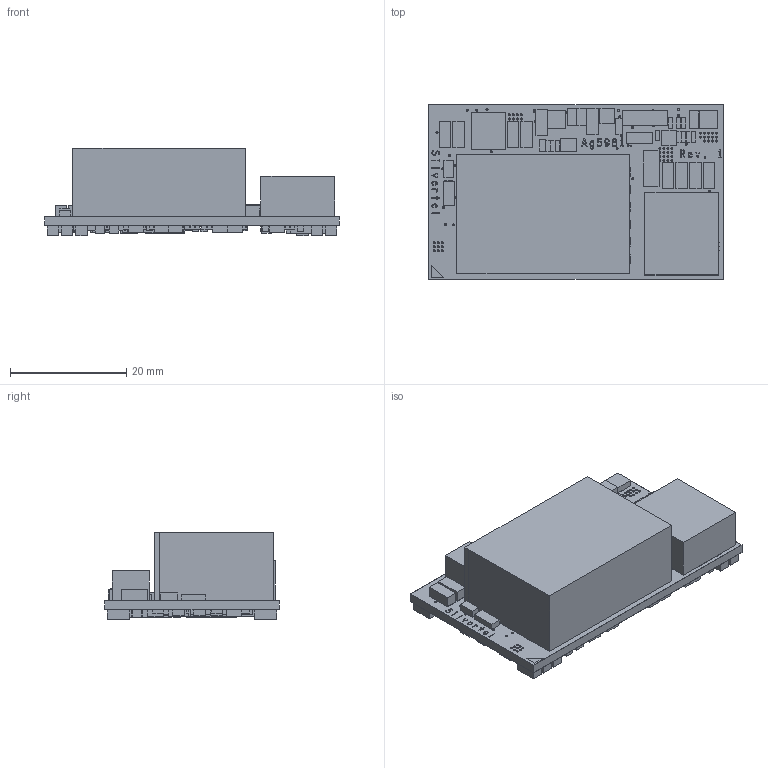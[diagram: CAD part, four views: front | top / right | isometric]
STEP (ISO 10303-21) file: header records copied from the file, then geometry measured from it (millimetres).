
FILE_DESCRIPTION(('FreeCAD Model'),'2;1');
FILE_NAME('Open CASCADE Shape Model','2025-09-18T10:27:08',(''),(''), 'Open CASCADE STEP processor 7.6','FreeCAD','Unknown');
FILE_SCHEMA(('AUTOMOTIVE_DESIGN { 1 0 10303 214 1 1 1 1 }'));
Products named in the file (1): Ag59800_Simplified
Bounding box: 50.62 x 30 x 15 mm (x, y, z)
Surface area: 15830.7 mm2 (no closed solid volume)
Topology: 0 solids, 5078 shells, 5078 faces, 25844 edges, 25844 vertices
Faces by surface type: extrusion 3641, revolution 1437
Entity records: 323990 total; most frequent: CARTESIAN_POINT 58252, DIRECTION 41742, VECTOR 28807, ORIENTED_EDGE 25844, EDGE_CURVE 25844, VERTEX_POINT 25844, LINE 25166, FACE_BOUND 6764
